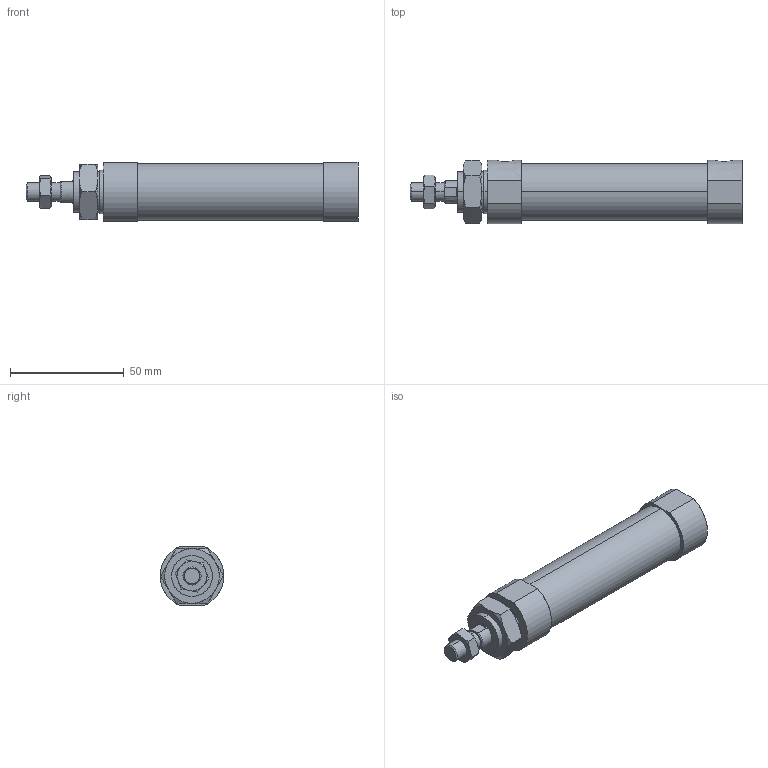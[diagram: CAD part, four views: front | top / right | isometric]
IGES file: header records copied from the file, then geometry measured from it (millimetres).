
Start section: SolidWorks IGES file using analytic representation for surfaces
Global section: file name: C:\Users\Toshiba\Desktop\JGND2-20-50-N.IGS; native system: SolidWorks 2014; preprocessor: SolidWorks 2014; author: Toshiba; date: 160804.102327; units: millimetre
Bounding box: 146 x 28 x 26 mm (x, y, z)
Surface area: 14645.9 mm2 (no closed solid volume)
Topology: 0 solids, 0 shells, 84 faces, 1468 edges, 1468 vertices
Faces by surface type: bspline 58, revolution 26
